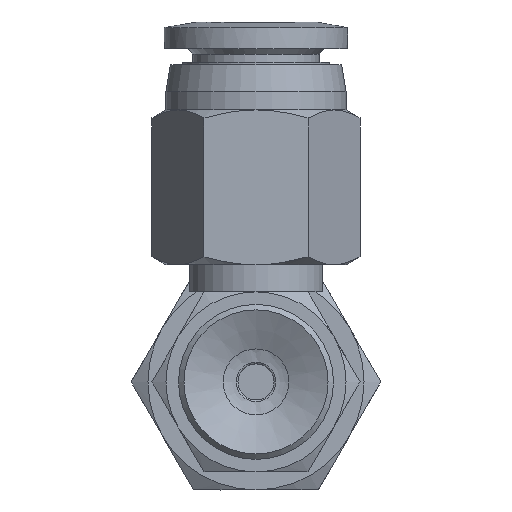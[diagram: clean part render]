
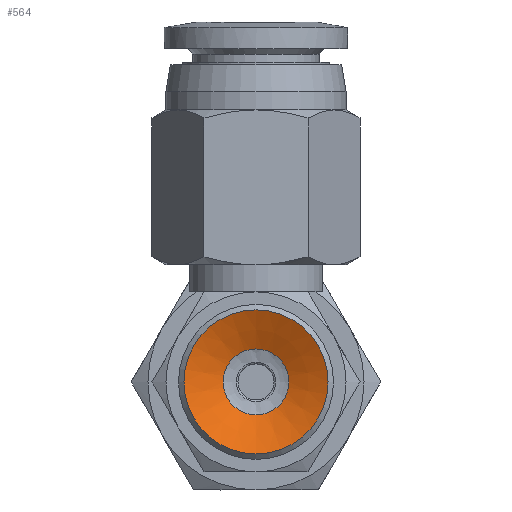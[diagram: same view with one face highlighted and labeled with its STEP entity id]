
A CAD part, front view. The second image highlights one B-rep face of the part: STEP entity #564.
In plain terms, the highlighted conical face has half-angle 65 degrees and reference radius 1.427 mm.
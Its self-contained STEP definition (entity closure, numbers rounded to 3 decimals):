
#564=ADVANCED_FACE('',(#888,#889),#890,.F.);
#888=FACE_BOUND('',#1299,.T.);
#889=FACE_OUTER_BOUND('',#1300,.T.);
#890=CONICAL_SURFACE('',#1301,1.427,1.134);
#1299=EDGE_LOOP('',(#2424));
#1300=EDGE_LOOP('',(#2425));
#1301=AXIS2_PLACEMENT_3D('',#2426,#2427,#2428);
#2424=ORIENTED_EDGE('',*,*,#2972,.T.);
#2425=ORIENTED_EDGE('',*,*,#2959,.T.);
#2426=CARTESIAN_POINT('',(0.0,7.096,0.));
#2427=DIRECTION('',(-0.0,-1.0,0.));
#2428=DIRECTION('',(0.0,0.,-1.0));
#2959=EDGE_CURVE('',#3386,#3386,#3387,.T.);
#2972=EDGE_CURVE('',#3412,#3412,#3413,.T.);
#3386=VERTEX_POINT('',#4312);
#3387=CIRCLE('',#4313,4.0);
#3412=VERTEX_POINT('',#4338);
#3413=CIRCLE('',#4339,1.828);
#4312=CARTESIAN_POINT('',(0.0,5.896,-4.0));
#4313=AXIS2_PLACEMENT_3D('',#5074,#5075,#5076);
#4338=CARTESIAN_POINT('',(0.0,6.909,-1.828));
#4339=AXIS2_PLACEMENT_3D('',#5113,#5114,#5115);
#5074=CARTESIAN_POINT('',(0.0,5.896,0.0));
#5075=DIRECTION('',(0.0,-1.0,0.));
#5076=DIRECTION('',(0.0,0.,-1.0));
#5113=CARTESIAN_POINT('',(0.0,6.909,0.0));
#5114=DIRECTION('',(0.0,1.0,0.));
#5115=DIRECTION('',(0.0,0.,-1.0));
